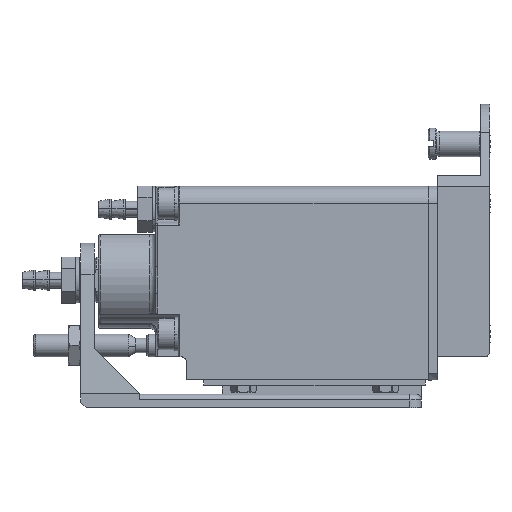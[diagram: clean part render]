
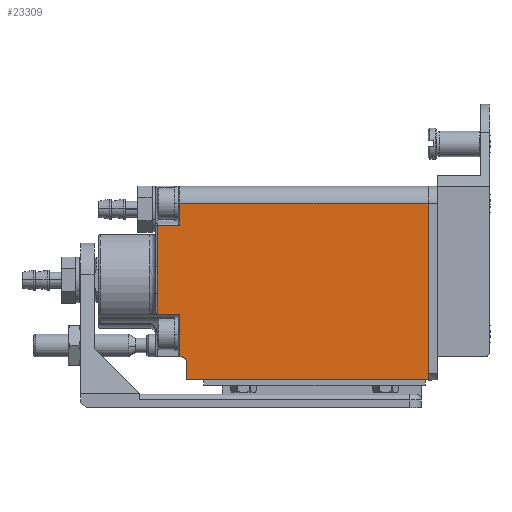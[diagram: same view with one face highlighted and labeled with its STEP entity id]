
A CAD part, left-side view. The second image highlights one B-rep face of the part: STEP entity #23309.
In plain terms, the highlighted planar face has unit normal (-1, 0, 0).
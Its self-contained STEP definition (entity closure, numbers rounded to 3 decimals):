
#133 = CARTESIAN_POINT ( 'NONE',  ( -9.5, 43.5, -15.5 ) ) ;
#572 = DIRECTION ( 'NONE',  ( -1., 0., 0. ) ) ;
#643 = EDGE_CURVE ( 'NONE', #26316, #26184, #16571, .T. ) ;
#1046 = LINE ( 'NONE', #44143, #39736 ) ;
#1135 = LINE ( 'NONE', #4235, #35124 ) ;
#1315 = VERTEX_POINT ( 'NONE', #17999 ) ;
#2051 = VECTOR ( 'NONE', #29292, 1000. ) ;
#2927 = LINE ( 'NONE', #7410, #12974 ) ;
#3409 = CARTESIAN_POINT ( 'NONE',  ( -9.5, 47.7, -8. ) ) ;
#4212 = VECTOR ( 'NONE', #36031, 1000. ) ;
#4235 = CARTESIAN_POINT ( 'NONE',  ( -9.5, 43.87, 7.7 ) ) ;
#4402 = LINE ( 'NONE', #18369, #2051 ) ;
#4898 = LINE ( 'NONE', #24693, #32434 ) ;
#6204 = CARTESIAN_POINT ( 'NONE',  ( -9.5, 47.74, -1.887 ) ) ;
#6826 = ORIENTED_EDGE ( 'NONE', *, *, #26653, .F. ) ;
#7240 = ORIENTED_EDGE ( 'NONE', *, *, #643, .T. ) ;
#7402 = EDGE_LOOP ( 'NONE', ( #29963, #47648, #48037, #6826, #47969, #17347, #7240, #42369, #36486, #27602, #18057, #8585, #30259 ) ) ;
#7410 = CARTESIAN_POINT ( 'NONE',  ( -9.5, 43.87, -19.5 ) ) ;
#7796 = VECTOR ( 'NONE', #20163, 1000. ) ;
#8585 = ORIENTED_EDGE ( 'NONE', *, *, #10312, .T. ) ;
#9983 = CARTESIAN_POINT ( 'NONE',  ( -9.5, 47.7, -0.083 ) ) ;
#10312 = EDGE_CURVE ( 'NONE', #32721, #33427, #4402, .T. ) ;
#10635 = DIRECTION ( 'NONE',  ( 0., 0., 1. ) ) ;
#11431 = VECTOR ( 'NONE', #25116, 1000. ) ;
#11817 = DIRECTION ( 'NONE',  ( 0., 1., 0. ) ) ;
#12974 = VECTOR ( 'NONE', #29797, 1000. ) ;
#13866 = EDGE_CURVE ( 'NONE', #33427, #33964, #1135, .T. ) ;
#14202 = DIRECTION ( 'NONE',  ( 0., 1., 0. ) ) ;
#14232 = LINE ( 'NONE', #47134, #4212 ) ;
#14557 = FACE_OUTER_BOUND ( 'NONE', #7402, .T. ) ;
#14682 = DIRECTION ( 'NONE',  ( 0., 0., -1. ) ) ;
#14959 = VERTEX_POINT ( 'NONE', #3409 ) ;
#15807 = EDGE_CURVE ( 'NONE', #26316, #1315, #34945, .T. ) ;
#16571 = CIRCLE ( 'NONE', #28369, 1. ) ;
#17347 = ORIENTED_EDGE ( 'NONE', *, *, #15807, .F. ) ;
#17484 = CARTESIAN_POINT ( 'NONE',  ( -9.5, 43.7, -4. ) ) ;
#17632 = VERTEX_POINT ( 'NONE', #44084 ) ;
#17999 = CARTESIAN_POINT ( 'NONE',  ( -9.5, 43.7, -15.5 ) ) ;
#18057 = ORIENTED_EDGE ( 'NONE', *, *, #30495, .T. ) ;
#18369 = CARTESIAN_POINT ( 'NONE',  ( -9.5, 43.7, -4. ) ) ;
#19203 = VERTEX_POINT ( 'NONE', #26040 ) ;
#20163 = DIRECTION ( 'NONE',  ( 0., 0., -1. ) ) ;
#20467 = EDGE_CURVE ( 'NONE', #34955, #1315, #32482, .T. ) ;
#21137 = CARTESIAN_POINT ( 'NONE',  ( -9.5, 47.7, -3.917 ) ) ;
#22987 = CARTESIAN_POINT ( 'NONE',  ( -9.5, 39.226, -22.6 ) ) ;
#23309 = ADVANCED_FACE ( 'NONE', ( #14557 ), #26581, .T. ) ;
#23492 = VECTOR ( 'NONE', #31688, 1000. ) ;
#24693 = CARTESIAN_POINT ( 'NONE',  ( -9.5, 43.87, 11.5 ) ) ;
#25116 = DIRECTION ( 'NONE',  ( 0., 0., -1. ) ) ;
#25186 = LINE ( 'NONE', #26243, #43935 ) ;
#25920 = EDGE_CURVE ( 'NONE', #33964, #19203, #37696, .T. ) ;
#26040 = CARTESIAN_POINT ( 'NONE',  ( -9.5, 47.7, 0.369 ) ) ;
#26184 = VERTEX_POINT ( 'NONE', #32556 ) ;
#26243 = CARTESIAN_POINT ( 'NONE',  ( -9.5, 47.7, -4. ) ) ;
#26316 = VERTEX_POINT ( 'NONE', #133 ) ;
#26574 = CARTESIAN_POINT ( 'NONE',  ( -9.5, 47.7, -4.369 ) ) ;
#26581 = PLANE ( 'NONE',  #36804 ) ;
#26653 = EDGE_CURVE ( 'NONE', #34955, #14959, #43440, .T. ) ;
#26752 = DIRECTION ( 'NONE',  ( 0., 0., 1. ) ) ;
#26934 = EDGE_CURVE ( 'NONE', #46062, #14959, #25186, .T. ) ;
#27602 = ORIENTED_EDGE ( 'NONE', *, *, #28829, .T. ) ;
#27694 = CARTESIAN_POINT ( 'NONE',  ( -9.5, 43.7, 7.7 ) ) ;
#28369 = AXIS2_PLACEMENT_3D ( 'NONE', #35512, #36494, #36440 ) ;
#28614 = CARTESIAN_POINT ( 'NONE',  ( -9.5, 47.728, -3.015 ) ) ;
#28690 = EDGE_CURVE ( 'NONE', #46062, #19203, #31083, .T. ) ;
#28829 = EDGE_CURVE ( 'NONE', #46834, #17632, #1046, .T. ) ;
#29292 = DIRECTION ( 'NONE',  ( 0., 0., -1. ) ) ;
#29797 = DIRECTION ( 'NONE',  ( 0., -1., 0. ) ) ;
#29963 = ORIENTED_EDGE ( 'NONE', *, *, #25920, .T. ) ;
#30259 = ORIENTED_EDGE ( 'NONE', *, *, #13866, .T. ) ;
#30495 = EDGE_CURVE ( 'NONE', #17632, #32721, #4898, .T. ) ;
#30941 = VERTEX_POINT ( 'NONE', #39898 ) ;
#31083 = B_SPLINE_CURVE_WITH_KNOTS ( 'NONE', 3,
 ( #39465, #21137, #28614, #6204, #32389, #9983, #36201 ),
 .UNSPECIFIED., .F., .F.,
 ( 4, 1, 1, 1, 4 ),
 ( 0., 0.286, 0.571, 0.714, 1. ),
 .UNSPECIFIED. ) ;
#31688 = DIRECTION ( 'NONE',  ( 0., 1., 0. ) ) ;
#32389 = CARTESIAN_POINT ( 'NONE',  ( -9.5, 47.72, -0.759 ) ) ;
#32434 = VECTOR ( 'NONE', #47139, 1000. ) ;
#32482 = LINE ( 'NONE', #17484, #11431 ) ;
#32556 = CARTESIAN_POINT ( 'NONE',  ( -9.5, 42.5, -16.5 ) ) ;
#32721 = VERTEX_POINT ( 'NONE', #34181 ) ;
#33328 = CARTESIAN_POINT ( 'NONE',  ( -9.5, 43.7, -8. ) ) ;
#33427 = VERTEX_POINT ( 'NONE', #27694 ) ;
#33771 = VECTOR ( 'NONE', #14202, 1000. ) ;
#33964 = VERTEX_POINT ( 'NONE', #47519 ) ;
#34181 = CARTESIAN_POINT ( 'NONE',  ( -9.5, 43.7, 11.5 ) ) ;
#34397 = EDGE_CURVE ( 'NONE', #26184, #30941, #14232, .T. ) ;
#34945 = LINE ( 'NONE', #47720, #33771 ) ;
#34955 = VERTEX_POINT ( 'NONE', #33328 ) ;
#35124 = VECTOR ( 'NONE', #11817, 1000. ) ;
#35409 = EDGE_CURVE ( 'NONE', #30941, #46834, #2927, .T. ) ;
#35512 = CARTESIAN_POINT ( 'NONE',  ( -9.5, 43.5, -16.5 ) ) ;
#36031 = DIRECTION ( 'NONE',  ( 0., 0., -1. ) ) ;
#36201 = CARTESIAN_POINT ( 'NONE',  ( -9.5, 47.7, 0.369 ) ) ;
#36440 = DIRECTION ( 'NONE',  ( 0., 0., -1. ) ) ;
#36486 = ORIENTED_EDGE ( 'NONE', *, *, #35409, .T. ) ;
#36494 = DIRECTION ( 'NONE',  ( 1., 0., 0. ) ) ;
#36804 = AXIS2_PLACEMENT_3D ( 'NONE', #22987, #572, #26752 ) ;
#37696 = LINE ( 'NONE', #46312, #7796 ) ;
#39465 = CARTESIAN_POINT ( 'NONE',  ( -9.5, 47.7, -4.369 ) ) ;
#39736 = VECTOR ( 'NONE', #10635, 1000. ) ;
#39898 = CARTESIAN_POINT ( 'NONE',  ( -9.5, 42.5, -19.5 ) ) ;
#42369 = ORIENTED_EDGE ( 'NONE', *, *, #34397, .T. ) ;
#43440 = LINE ( 'NONE', #46753, #23492 ) ;
#43935 = VECTOR ( 'NONE', #14682, 1000. ) ;
#44084 = CARTESIAN_POINT ( 'NONE',  ( -9.5, 0., 11.5 ) ) ;
#44143 = CARTESIAN_POINT ( 'NONE',  ( -9.5, 0., -4. ) ) ;
#44298 = CARTESIAN_POINT ( 'NONE',  ( -9.5, 0., -19.5 ) ) ;
#46062 = VERTEX_POINT ( 'NONE', #26574 ) ;
#46312 = CARTESIAN_POINT ( 'NONE',  ( -9.5, 47.7, -4. ) ) ;
#46753 = CARTESIAN_POINT ( 'NONE',  ( -9.5, 45.86, -8. ) ) ;
#46834 = VERTEX_POINT ( 'NONE', #44298 ) ;
#47134 = CARTESIAN_POINT ( 'NONE',  ( -9.5, 42.5, -4. ) ) ;
#47139 = DIRECTION ( 'NONE',  ( 0., 1., 0. ) ) ;
#47519 = CARTESIAN_POINT ( 'NONE',  ( -9.5, 47.7, 7.7 ) ) ;
#47648 = ORIENTED_EDGE ( 'NONE', *, *, #28690, .F. ) ;
#47720 = CARTESIAN_POINT ( 'NONE',  ( -9.5, 45.75, -15.5 ) ) ;
#47969 = ORIENTED_EDGE ( 'NONE', *, *, #20467, .T. ) ;
#48037 = ORIENTED_EDGE ( 'NONE', *, *, #26934, .T. ) ;
